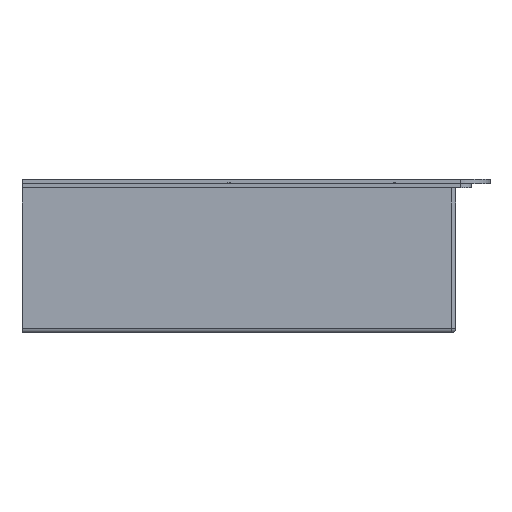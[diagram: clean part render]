
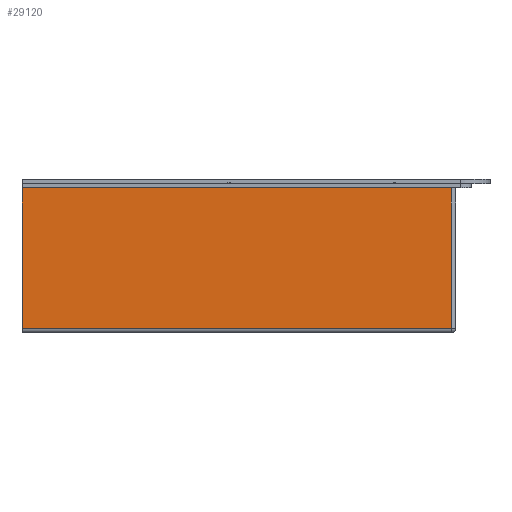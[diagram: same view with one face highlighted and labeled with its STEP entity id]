
A CAD part, front view. The second image highlights one B-rep face of the part: STEP entity #29120.
In plain terms, the highlighted planar face has unit normal (0, -1, 0).
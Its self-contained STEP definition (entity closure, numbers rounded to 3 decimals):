
#4117 = EDGE_CURVE ( 'NONE', #58992, #5496, #7545, .T. ) ;
#4357 = LINE ( 'NONE', #23107, #16960 ) ;
#5224 = CARTESIAN_POINT ( 'NONE',  ( 249.728, -274.888, -67.8 ) ) ;
#5496 = VERTEX_POINT ( 'NONE', #52154 ) ;
#7545 = LINE ( 'NONE', #9434, #32666 ) ;
#8428 = ORIENTED_EDGE ( 'NONE', *, *, #20204, .T. ) ;
#9005 = CARTESIAN_POINT ( 'NONE',  ( 54.728, -274.888, -69.8 ) ) ;
#9434 = CARTESIAN_POINT ( 'NONE',  ( 249.728, -274.888, -4. ) ) ;
#9776 = CARTESIAN_POINT ( 'NONE',  ( 54.728, -274.888, -69.8 ) ) ;
#11537 = LINE ( 'NONE', #29176, #36723 ) ;
#12595 = ORIENTED_EDGE ( 'NONE', *, *, #32440, .T. ) ;
#13728 = DIRECTION ( 'NONE',  ( -1., 0., 0. ) ) ;
#14897 = DIRECTION ( 'NONE',  ( 0., 0., 1. ) ) ;
#16960 = VECTOR ( 'NONE', #60879, 1000. ) ;
#18917 = DIRECTION ( 'NONE',  ( 1., 0., 0. ) ) ;
#20204 = EDGE_CURVE ( 'NONE', #59593, #5496, #11537, .T. ) ;
#22567 = ORIENTED_EDGE ( 'NONE', *, *, #4117, .F. ) ;
#23074 = PLANE ( 'NONE',  #30045 ) ;
#23107 = CARTESIAN_POINT ( 'NONE',  ( 54.728, -274.888, -67.8 ) ) ;
#23172 = ORIENTED_EDGE ( 'NONE', *, *, #31680, .F. ) ;
#29120 = ADVANCED_FACE ( 'NONE', ( #54990 ), #23074, .F. ) ;
#29176 = CARTESIAN_POINT ( 'NONE',  ( 249.728, -274.888, -69.8 ) ) ;
#30045 = AXIS2_PLACEMENT_3D ( 'NONE', #9005, #42057, #13728 ) ;
#30159 = EDGE_LOOP ( 'NONE', ( #8428, #22567, #23172, #12595 ) ) ;
#31680 = EDGE_CURVE ( 'NONE', #60352, #58992, #50303, .T. ) ;
#32440 = EDGE_CURVE ( 'NONE', #60352, #59593, #4357, .T. ) ;
#32666 = VECTOR ( 'NONE', #18917, 1000. ) ;
#36303 = VECTOR ( 'NONE', #38094, 1000. ) ;
#36723 = VECTOR ( 'NONE', #14897, 1000. ) ;
#38094 = DIRECTION ( 'NONE',  ( 0., 0., 1. ) ) ;
#42057 = DIRECTION ( 'NONE',  ( 0., 1., 0. ) ) ;
#49511 = CARTESIAN_POINT ( 'NONE',  ( 54.728, -274.888, -67.8 ) ) ;
#50303 = LINE ( 'NONE', #9776, #36303 ) ;
#52154 = CARTESIAN_POINT ( 'NONE',  ( 249.728, -274.888, -4. ) ) ;
#54990 = FACE_OUTER_BOUND ( 'NONE', #30159, .T. ) ;
#57988 = CARTESIAN_POINT ( 'NONE',  ( 54.728, -274.888, -4. ) ) ;
#58992 = VERTEX_POINT ( 'NONE', #57988 ) ;
#59593 = VERTEX_POINT ( 'NONE', #5224 ) ;
#60352 = VERTEX_POINT ( 'NONE', #49511 ) ;
#60879 = DIRECTION ( 'NONE',  ( 1., 0., 0. ) ) ;
